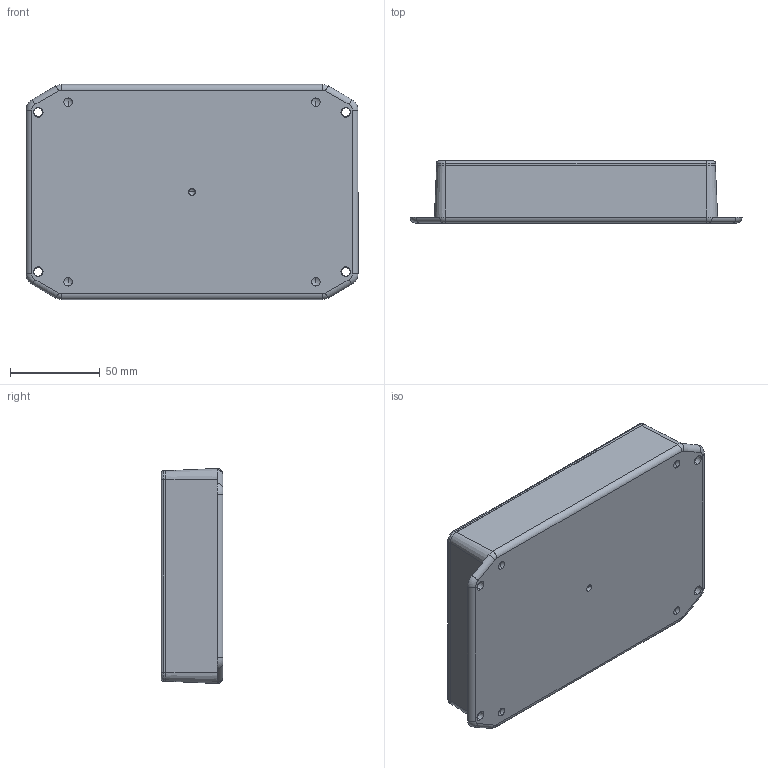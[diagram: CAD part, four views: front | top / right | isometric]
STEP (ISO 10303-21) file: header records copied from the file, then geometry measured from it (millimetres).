
FILE_DESCRIPTION (( 'STEP AP214' ), '1' );
FILE_NAME ('DC-45FMBYR_ASS''Y.STEP', '2010-08-23T12:11:26', ( '' ), ( '' ), 'SwSTEP 2.0', 'SolidWorks 2010', '' );
FILE_SCHEMA (( 'AUTOMOTIVE_DESIGN' ));
Length unit declared in the file: inch
Products named in the file (4): DC-45B_DC-45BFMBY; DC-46C_DC-46C-R; SCREWS-DC-BR; DC-45FMBYR_ASS''Y
Assembly tree (6 placements, depth 2):
  DC-45FMBYR_ASS''Y
    SCREWS-DC-BR  x4
    DC-45B_DC-45BFMBY
    DC-46C_DC-46C-R
Bounding box: 185.04 x 34.47 x 119.89 mm (x, y, z)
Volume: 163133 mm3; surface area: 119513.1 mm2
Topology: 10 solids, 10 shells, 447 faces, 1060 edges, 682 vertices
Faces by surface type: plane 167, cylinder 152, cone 88, torus 20, sphere 12, bspline 8
Entity records: 11757 total; most frequent: CARTESIAN_POINT 2046, DIRECTION 1954, ORIENTED_EDGE 1688, EDGE_CURVE 844, AXIS2_PLACEMENT_3D 796, VERTEX_POINT 544, EDGE_LOOP 436, CIRCLE 426
